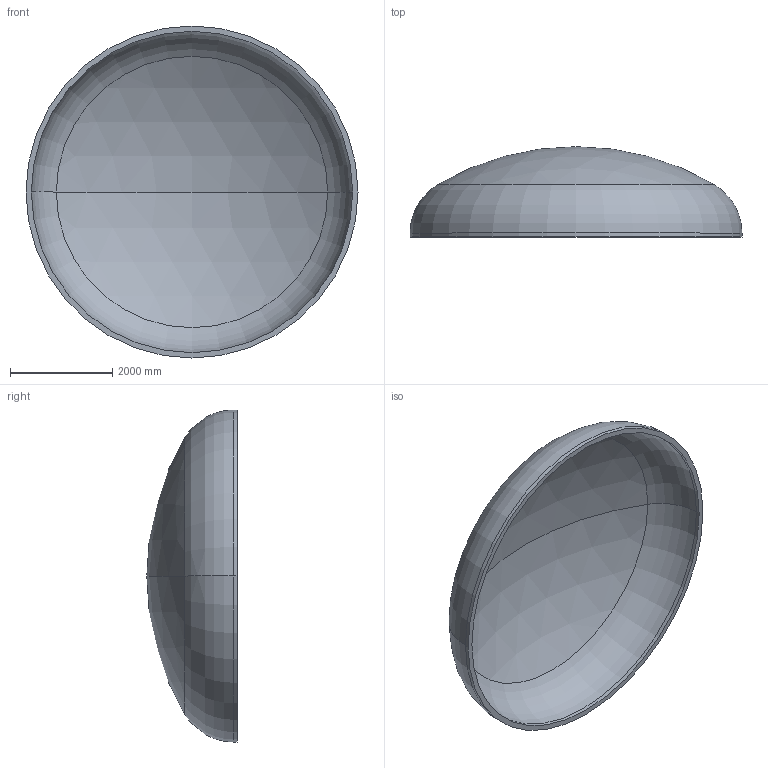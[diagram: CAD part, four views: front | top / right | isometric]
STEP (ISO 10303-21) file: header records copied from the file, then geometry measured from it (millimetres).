
FILE_DESCRIPTION (( 'STEP AP203' ), '1' );
FILE_NAME ('DIN 28013 Korbbogenform_-_Boden DIN 28013 - 6500 x 75 - I - s=104.step', '2016-07-04T10:44:06', ( '' ), ( '' ), 'SwSTEP 2.0', 'SolidWorks 2013', '' );
FILE_SCHEMA (( 'CONFIG_CONTROL_DESIGN' ));
Length unit declared in the file: millimetre
Products named in the file (1): DIN 28013 Korbbogenform_-_Boden DIN 28013 - 6500 x 75 - I - s=104
Bounding box: 6500 x 1768.64 x 6500 mm (x, y, z)
Volume: 4835567919.2 mm3; surface area: 95104045.6 mm2
Topology: 1 solids, 1 shells, 13 faces, 24 edges, 14 vertices
Faces by surface type: torus 4, cylinder 4, sphere 4, plane 1
Entity records: 407 total; most frequent: DIRECTION 72, CARTESIAN_POINT 52, ORIENTED_EDGE 48, AXIS2_PLACEMENT_3D 34, EDGE_CURVE 24, CIRCLE 20, VERTEX_POINT 14, EDGE_LOOP 14
